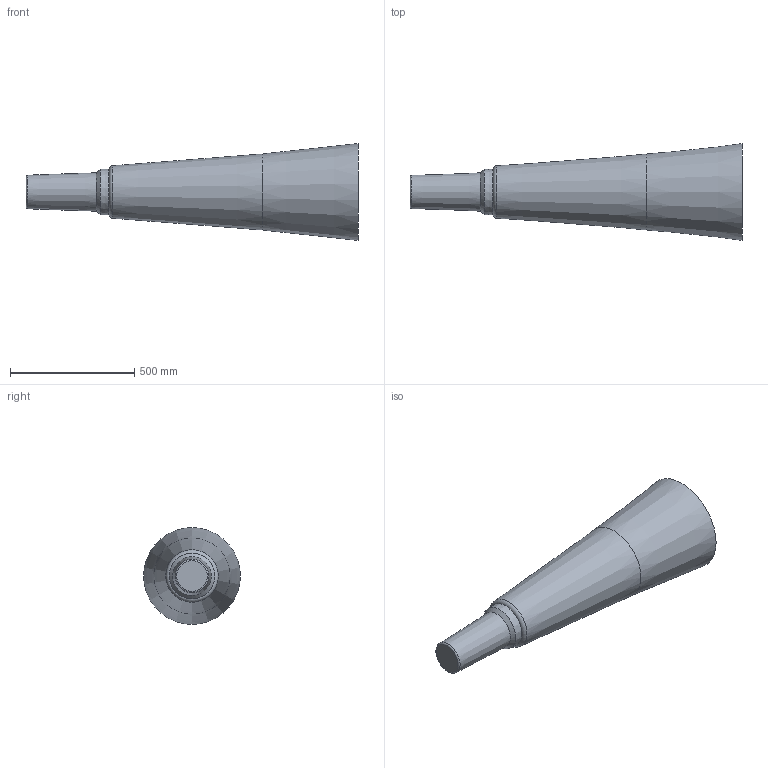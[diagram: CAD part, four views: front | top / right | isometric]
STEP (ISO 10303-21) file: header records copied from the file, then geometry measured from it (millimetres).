
FILE_DESCRIPTION(/* description */ (''),/* implementation_level */ '2;1');
FILE_NAME(/* name */ 'NTF_Arc_Sector_Straight_Sting_0deg_2023_10_02.stp',/* time_stamp */ '2023-10-02T14:28:25-04:00',/* author */ (''),/* organization */ (''),/* preprocessor_version */ 'ST-DEVELOPER v16.7',/* originating_system */ 'SIEMENS PLM Software NX 12.0',/* authorisation */ '');
FILE_SCHEMA (('AUTOMOTIVE_DESIGN { 1 0 10303 214 3 1 1 1 }'));
Length unit declared in the file: inch
Products named in the file (1): sbry3178F678wn5k
Bounding box: 1333.6 x 388.72 x 388.72 mm (x, y, z)
Volume: 74717910.6 mm3; surface area: 1215910.2 mm2
Topology: 1 solids, 1 shells, 9 faces, 15 edges, 8 vertices
Faces by surface type: cone 5, plane 2, torus 2
Entity records: 208 total; most frequent: DIRECTION 36, CARTESIAN_POINT 26, AXIS2_PLACEMENT_3D 18, EDGE_LOOP 16, ORIENTED_EDGE 16, FACE_BOUND 14, ADVANCED_FACE 9, VERTEX_POINT 8
